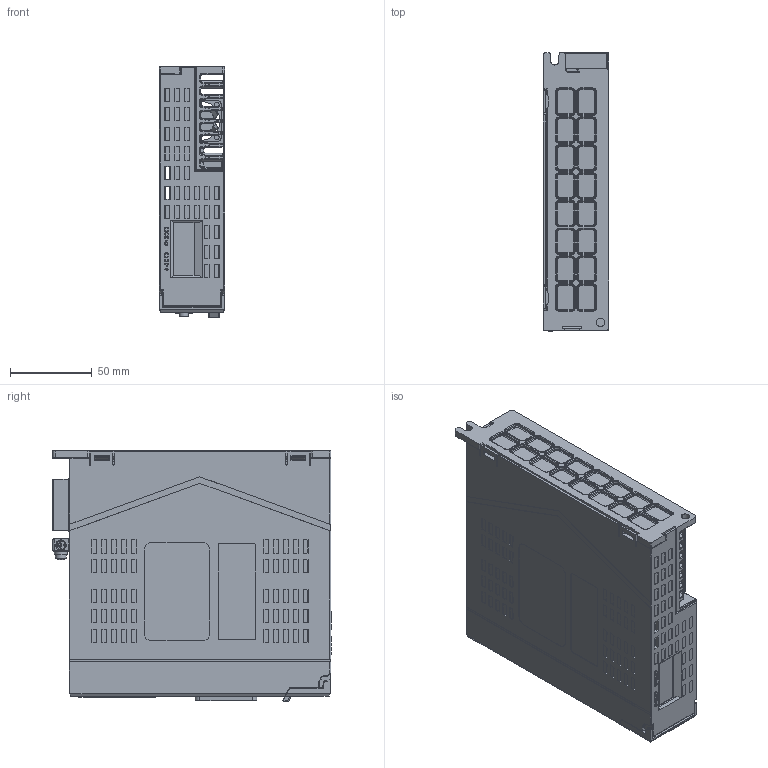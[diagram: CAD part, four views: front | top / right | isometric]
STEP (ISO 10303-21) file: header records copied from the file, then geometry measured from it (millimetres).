
FILE_DESCRIPTION((''),'2;1');
FILE_NAME('1_ASM','2022-05-24T08:59:31',('ZhangJF'),(''),'CREO PARAMETRIC BY PTC INC, 2019010','CREO PARAMETRIC BY PTC INC, 2019010','');
FILE_SCHEMA(('CONFIG_CONTROL_DESIGN','SHAPE_APPEARANCE_LAYERS_GROUPS'));
Products named in the file (11): BENTI; SANREQI; FANGAI; 20200715; LOGO; FENGSHAN-252510; CEGAIBAN; ISO7045-M3X16; PINGTOU-M3X8; ISO7045-M4X8; 1_ASM
Assembly tree (15 placements, depth 2):
  1_ASM
    BENTI
    SANREQI
    FANGAI
    20200715
    LOGO
    FENGSHAN-252510
    CEGAIBAN
    ISO7045-M3X16  x2
    PINGTOU-M3X8  x4
    ISO7045-M4X8  x2
Bounding box: 40 x 170.3 x 153.1 mm (x, y, z)
Volume: 394173.8 mm3; surface area: 285035.9 mm2
Topology: 30 solids, 30 shells, 5894 faces, 15100 edges, 9600 vertices
Faces by surface type: plane 3650, cylinder 1380, bspline 272, torus 223, cone 217, sphere 97, extrusion 55
Entity records: 247088 total; most frequent: CARTESIAN_POINT 50924, ORIENTED_EDGE 29622, DIRECTION 27394, EDGE_CURVE 14811, PRESENTATION_STYLE_ASSIGNMENT 13470, STYLED_ITEM 13470, VECTOR 10788, LINE 10733
